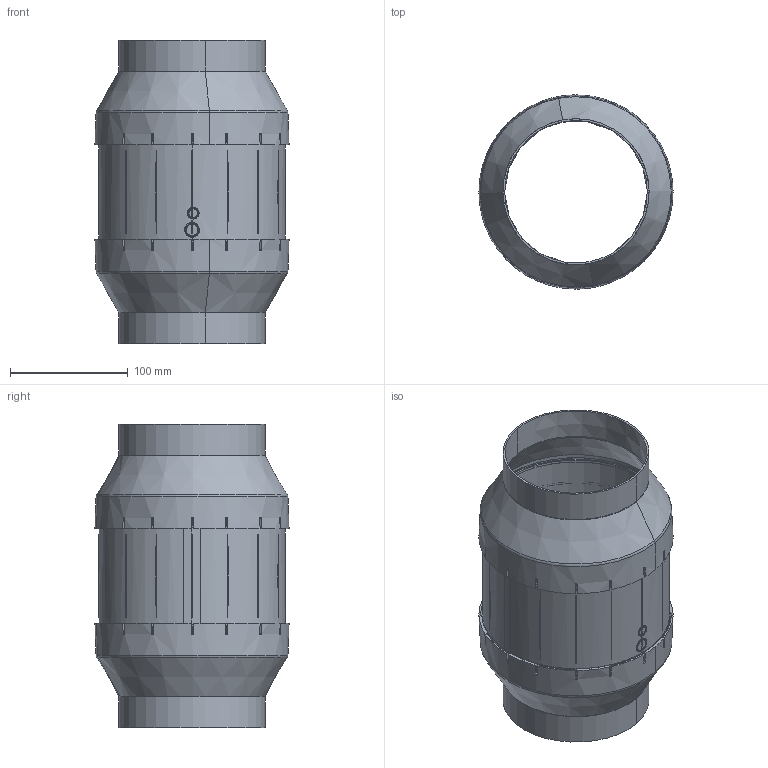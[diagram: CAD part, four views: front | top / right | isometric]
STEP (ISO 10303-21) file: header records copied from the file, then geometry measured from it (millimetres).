
FILE_DESCRIPTION (( 'STEP AP203' ), '1' );
FILE_NAME ('137670-00_EM125LE201.STEP', '2017-01-19T09:52:48', ( '' ), ( '' ), 'SwSTEP 2.0', 'SolidWorks 2012', '' );
FILE_SCHEMA (( 'CONFIG_CONTROL_DESIGN' ));
Length unit declared in the file: millimetre
Products named in the file (1): 137670-00_EM125LE201
Bounding box: 164.91 x 164.91 x 258 mm (x, y, z)
Surface area: 306046.9 mm2 (no closed solid volume)
Topology: 0 solids, 5 shells, 347 faces, 1293 edges, 888 vertices
Faces by surface type: plane 127, cylinder 103, cone 58, bspline 43, torus 16
Entity records: 17376 total; most frequent: CARTESIAN_POINT 7795, ORIENTED_EDGE 2106, DIRECTION 1658, EDGE_CURVE 1293, VERTEX_POINT 888, AXIS2_PLACEMENT_3D 687, B_SPLINE_CURVE_WITH_KNOTS 519, CIRCLE 382
